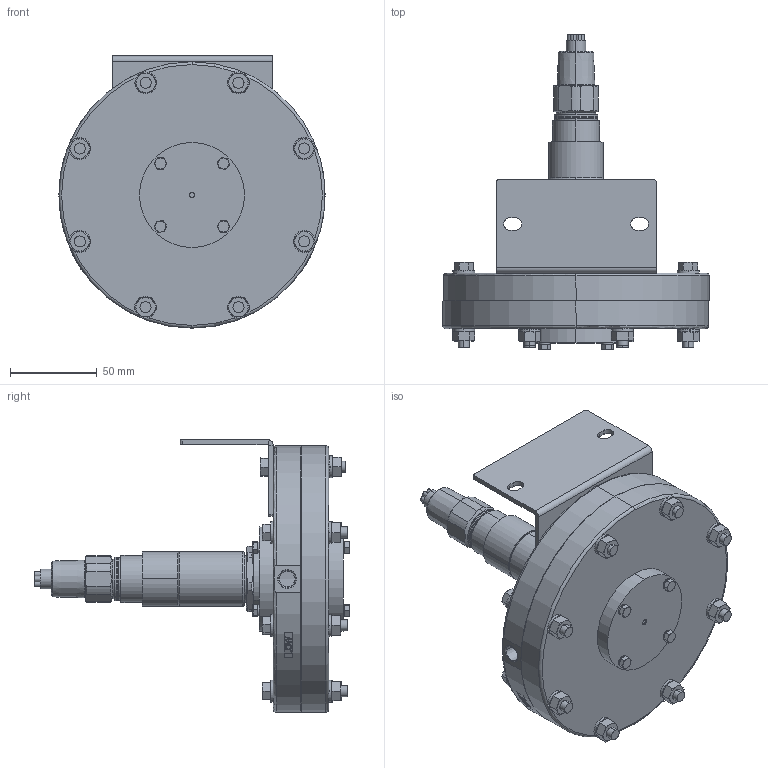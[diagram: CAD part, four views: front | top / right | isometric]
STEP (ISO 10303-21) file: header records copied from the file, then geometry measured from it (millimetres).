
FILE_DESCRIPTION (( 'STEP AP214' ), '1' );
FILE_NAME ('12SXXNK_1_3.STEP', '2025-04-02T18:22:29', ( '' ), ( '' ), 'SwSTEP 2.0', 'SolidWorks 2023', '' );
FILE_SCHEMA (( 'AUTOMOTIVE_DESIGN' ));
Length unit declared in the file: inch
Products named in the file (1): 12SXXNK_1_3
Bounding box: 153.16 x 181.05 x 156.61 mm (x, y, z)
Surface area: 117388 mm2 (no closed solid volume)
Topology: 0 solids, 88 shells, 614 faces, 1728 edges, 1207 vertices
Faces by surface type: plane 288, cone 161, cylinder 150, torus 10, bspline 5
Entity records: 21692 total; most frequent: CARTESIAN_POINT 6211, DIRECTION 3234, ORIENTED_EDGE 2887, EDGE_CURVE 1728, AXIS2_PLACEMENT_3D 1294, VERTEX_POINT 1207, EDGE_LOOP 716, CIRCLE 684
